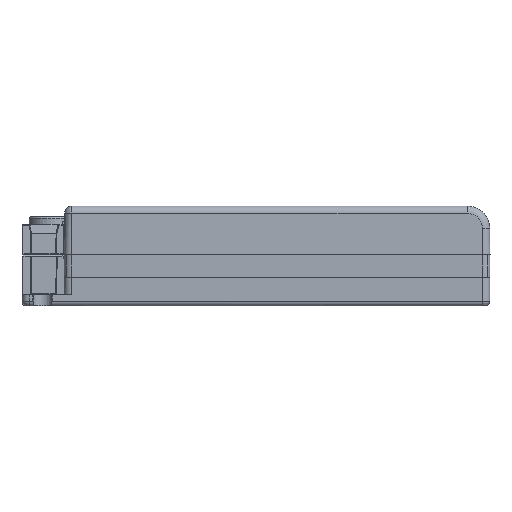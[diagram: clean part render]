
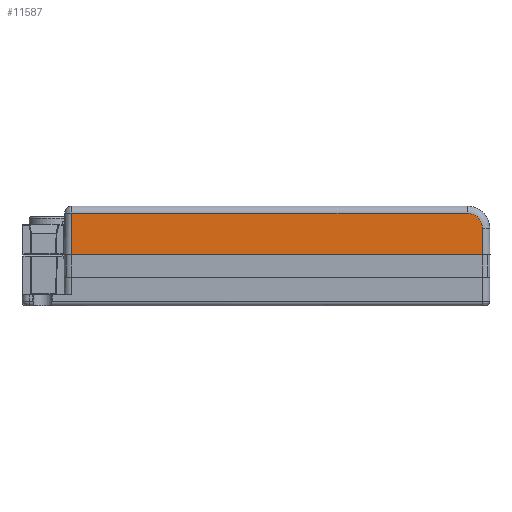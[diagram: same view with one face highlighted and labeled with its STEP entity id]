
A CAD part, front view. The second image highlights one B-rep face of the part: STEP entity #11587.
In plain terms, the highlighted planar face has unit normal (0, -1, 0.009).
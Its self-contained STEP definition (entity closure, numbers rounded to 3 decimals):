
#800 = B_SPLINE_CURVE_WITH_KNOTS ( 'NONE', 3,
 ( #32584, #25507, #35703, #19659, #4037, #9664, #38820, #38410, #19867, #35077 ),
 .UNSPECIFIED., .F., .F.,
 ( 4, 2, 2, 2, 4 ),
 ( 0., 0.25, 0.5, 0.75, 1. ),
 .UNSPECIFIED. ) ;
#1338 = ORIENTED_EDGE ( 'NONE', *, *, #31427, .T. ) ;
#2417 = CARTESIAN_POINT ( 'NONE',  ( -40.521, -33.42, 20.414 ) ) ;
#4037 = CARTESIAN_POINT ( 'NONE',  ( 49.157, -33.432, 19.118 ) ) ;
#5507 = EDGE_CURVE ( 'NONE', #13752, #35247, #6173, .T. ) ;
#5955 = ORIENTED_EDGE ( 'NONE', *, *, #14931, .T. ) ;
#6122 = CARTESIAN_POINT ( 'NONE',  ( 49.9, -33.5, 11.3 ) ) ;
#6173 = LINE ( 'NONE', #8886, #30922 ) ;
#6211 = CARTESIAN_POINT ( 'NONE',  ( -41.143, -33.42, 20.414 ) ) ;
#6342 = VERTEX_POINT ( 'NONE', #31911 ) ;
#7284 = EDGE_CURVE ( 'NONE', #35247, #13249, #36430, .T. ) ;
#7461 = LINE ( 'NONE', #15284, #41228 ) ;
#8143 = ORIENTED_EDGE ( 'NONE', *, *, #5507, .T. ) ;
#8886 = CARTESIAN_POINT ( 'NONE',  ( -40.521, -33.42, 20.414 ) ) ;
#9293 = DIRECTION ( 'NONE',  ( -0.009, -0.009, -1. ) ) ;
#9664 = CARTESIAN_POINT ( 'NONE',  ( 48.531, -33.426, 19.739 ) ) ;
#10135 = LINE ( 'NONE', #22840, #38270 ) ;
#11587 = ADVANCED_FACE ( 'NONE', ( #35578 ), #37865, .T. ) ;
#13249 = VERTEX_POINT ( 'NONE', #6122 ) ;
#13290 = DIRECTION ( 'NONE',  ( 0., -0.009, -1. ) ) ;
#13752 = VERTEX_POINT ( 'NONE', #2417 ) ;
#13910 = DIRECTION ( 'NONE',  ( -0.009, 0.009, 1. ) ) ;
#14931 = EDGE_CURVE ( 'NONE', #13249, #17466, #7461, .T. ) ;
#15284 = CARTESIAN_POINT ( 'NONE',  ( 49.9, -33.5, 11.3 ) ) ;
#17032 = VECTOR ( 'NONE', #36639, 1000. ) ;
#17466 = VERTEX_POINT ( 'NONE', #31263 ) ;
#19118 = DIRECTION ( 'NONE',  ( 0., -1., 0.009 ) ) ;
#19659 = CARTESIAN_POINT ( 'NONE',  ( 49.411, -33.435, 18.742 ) ) ;
#19713 = DIRECTION ( 'NONE',  ( -1., 0., 0. ) ) ;
#19867 = CARTESIAN_POINT ( 'NONE',  ( 46.893, -33.42, 20.414 ) ) ;
#22840 = CARTESIAN_POINT ( 'NONE',  ( -41.143, -33.42, 20.414 ) ) ;
#23212 = EDGE_CURVE ( 'NONE', #6342, #13752, #10135, .T. ) ;
#23319 = CARTESIAN_POINT ( 'NONE',  ( 50.443, -33.5, 11.3 ) ) ;
#25507 = CARTESIAN_POINT ( 'NONE',  ( 49.846, -33.446, 17.485 ) ) ;
#26745 = ORIENTED_EDGE ( 'NONE', *, *, #7284, .T. ) ;
#29546 = CARTESIAN_POINT ( 'NONE',  ( -40.6, -33.5, 11.3 ) ) ;
#30922 = VECTOR ( 'NONE', #9293, 1000. ) ;
#31263 = CARTESIAN_POINT ( 'NONE',  ( 49.85, -33.45, 17.044 ) ) ;
#31427 = EDGE_CURVE ( 'NONE', #17466, #6342, #800, .T. ) ;
#31911 = CARTESIAN_POINT ( 'NONE',  ( 46.45, -33.42, 20.414 ) ) ;
#32584 = CARTESIAN_POINT ( 'NONE',  ( 49.85, -33.45, 17.044 ) ) ;
#34764 = ORIENTED_EDGE ( 'NONE', *, *, #23212, .T. ) ;
#35077 = CARTESIAN_POINT ( 'NONE',  ( 46.45, -33.42, 20.414 ) ) ;
#35247 = VERTEX_POINT ( 'NONE', #29546 ) ;
#35578 = FACE_OUTER_BOUND ( 'NONE', #37574, .T. ) ;
#35703 = CARTESIAN_POINT ( 'NONE',  ( 49.754, -33.442, 17.929 ) ) ;
#36430 = LINE ( 'NONE', #23319, #17032 ) ;
#36639 = DIRECTION ( 'NONE',  ( 1., 0., 0. ) ) ;
#37207 = AXIS2_PLACEMENT_3D ( 'NONE', #6211, #19118, #13290 ) ;
#37574 = EDGE_LOOP ( 'NONE', ( #8143, #26745, #5955, #1338, #34764 ) ) ;
#37865 = PLANE ( 'NONE',  #37207 ) ;
#38270 = VECTOR ( 'NONE', #19713, 1000. ) ;
#38410 = CARTESIAN_POINT ( 'NONE',  ( 47.336, -33.421, 20.326 ) ) ;
#38820 = CARTESIAN_POINT ( 'NONE',  ( 48.152, -33.424, 19.99 ) ) ;
#41228 = VECTOR ( 'NONE', #13910, 1000. ) ;
